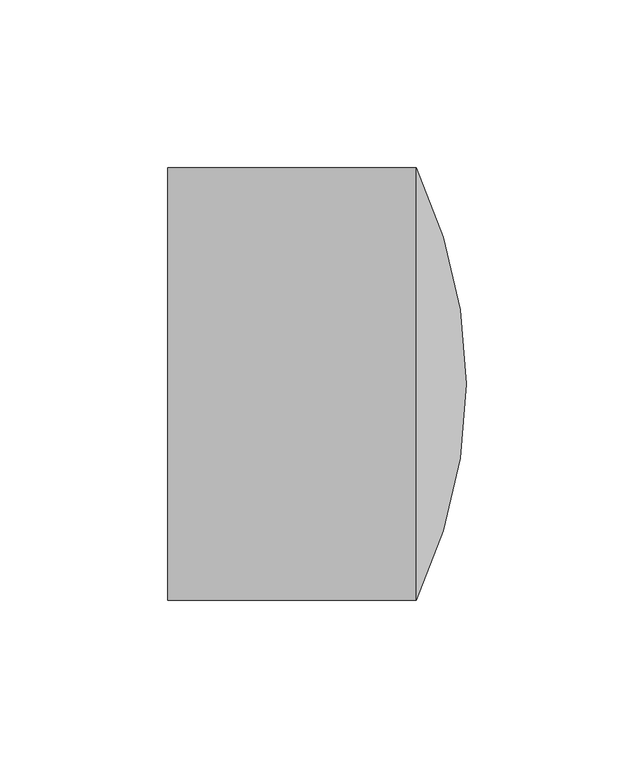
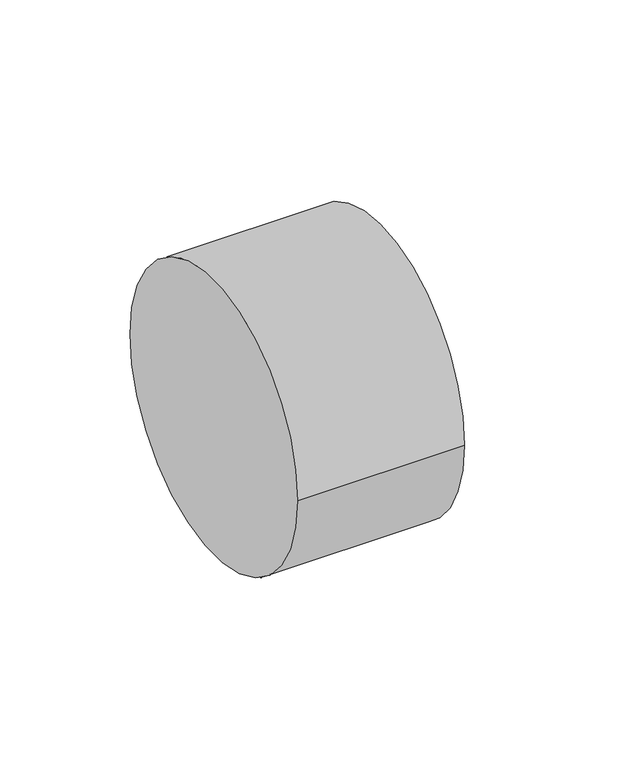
"""IFC4 building model written with IfcOpenShell, lengths in millimetres: pipe fitting geometry, 01051012 : Tampão F."""

from ifc_helpers import new_model, si_unit, point, frame, origin, place, context, project, spatial, circle_curve, ellipse_curve, trimmed, source, transform, mapped, element, save
from ifc_brep_helpers import plane_surface, cylinder_surface, revolved_surface, advanced_brep


def pipe_fitting_1a42fab7(model_context):
    return source(origin(), model_context, "Body", "AdvancedBrep", [
        advanced_brep(
        [(74.1666667, 64.5, 0.0), (89.0, 0.0, 0.0), (74.1666667, -64.5, 0.0), (0.0, -64.5, 0.0), (0.0, 64.5, 0.0)],
        [
            (0, 1, circle_curve(frame((-64.4905702, -1.3432233, 0.0), z_axis=(0.0, 0.0, -1.0), x_axis=(1.0, 0.0, 0.0)), 153.4964475)),
            (1, 2, circle_curve(frame((-64.4905702, 1.3432233, 0.0), z_axis=(0.0, 0.0, -1.0), x_axis=(1.0, 0.0, 0.0)), 153.4964475)),
            (2, 0, circle_curve(frame((74.1666667, 0.0, 0.0), z_axis=(1.0, 0.0, 0.0), x_axis=(0.0, 1.0, 0.0)), 64.5)),
            (0, 2, circle_curve(frame((74.1666667, 0.0, 0.0), z_axis=(1.0, 0.0, 0.0), x_axis=(0.0, 1.0, 0.0)), 64.5)),
            (3, 4, circle_curve(frame((0.0, 0.0, 0.0), z_axis=(-1.0, 0.0, 0.0), x_axis=(0.0, 1.0, 0.0)), 64.5)),
            (4, 3, circle_curve(frame((0.0, 0.0, 0.0), z_axis=(-1.0, 0.0, 0.0), x_axis=(0.0, 1.0, 0.0)), 64.5)),
            (3, 2),
            (0, 4),
        ],
        [
            revolved_surface(trimmed(ellipse_curve(frame((-64.4905702, -1.3432233, 0.0), z_axis=(0.0, 0.0, 1.0), x_axis=(1.0, 0.0, 0.0)), 153.4964475, 153.4964475), [point((89.0, 0.0, 0.0))], [point((74.1666667, 64.5, 0.0))], True, "CARTESIAN"), (74.1666667, 0.0, 0.0), (-1.0, 0.0, 0.0)),
            plane_surface(frame((0.0, 0.0, 0.0), z_axis=(-1.0, 0.0, 0.0), x_axis=(0.0, 0.0, 1.0))),
            cylinder_surface(frame((0.0, 0.0, 0.0), z_axis=(-1.0, 0.0, 0.0), x_axis=(0.0, 1.0, 0.0)), 64.5),
        ],
        [
            (0, [[1, 2, 3]]),
            (0, [[-1, 4, -2]]),
            (1, [[5, 6]]),
            (2, [[-5, 7, -4, 8]]),
            (2, [[-6, -8, -3, -7]]),
        ],
    ),
    ])


if __name__ == "__main__":
    model = new_model("IFC4")
    model_context = context("Model", 3, world=origin())
    ifc_project = project(units=[si_unit("LENGTHUNIT", "METRE", prefix="MILLI")], contexts=[model_context])
    site = spatial("IfcSite", under=ifc_project)
    building = spatial("IfcBuilding", under=site)
    placement = place(None, origin())
    pipe_fitting_shape = pipe_fitting_1a42fab7(model_context)
    element("IfcPipeFitting", 1, ObjectType="01051012 : Tampão F", at=placement, inside=building, context=model_context, shape_type="MappedRepresentation", body=[
        mapped(pipe_fitting_shape, transform((0.0, 0.0, 0.0), x_axis=(1.0, 0.0, 0.0), y_axis=(0.0, 1.0, 0.0), z_axis=(0.0, 0.0, 1.0))),
    ])
    save(model, "model.ifc")
